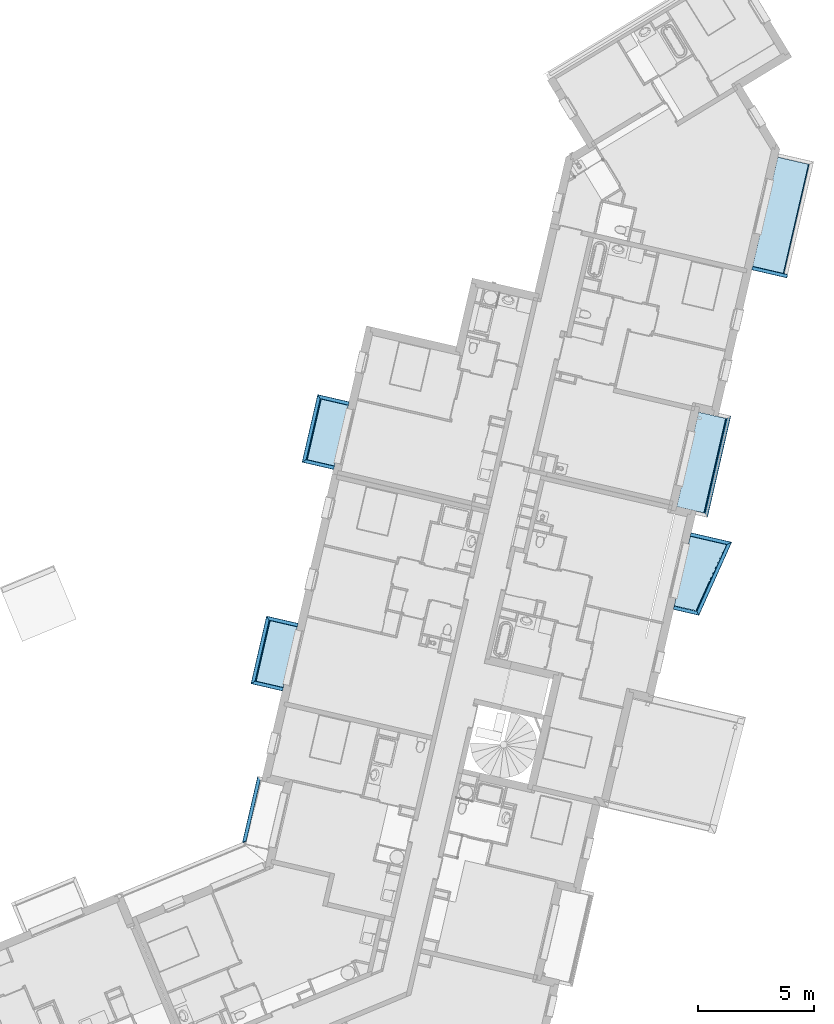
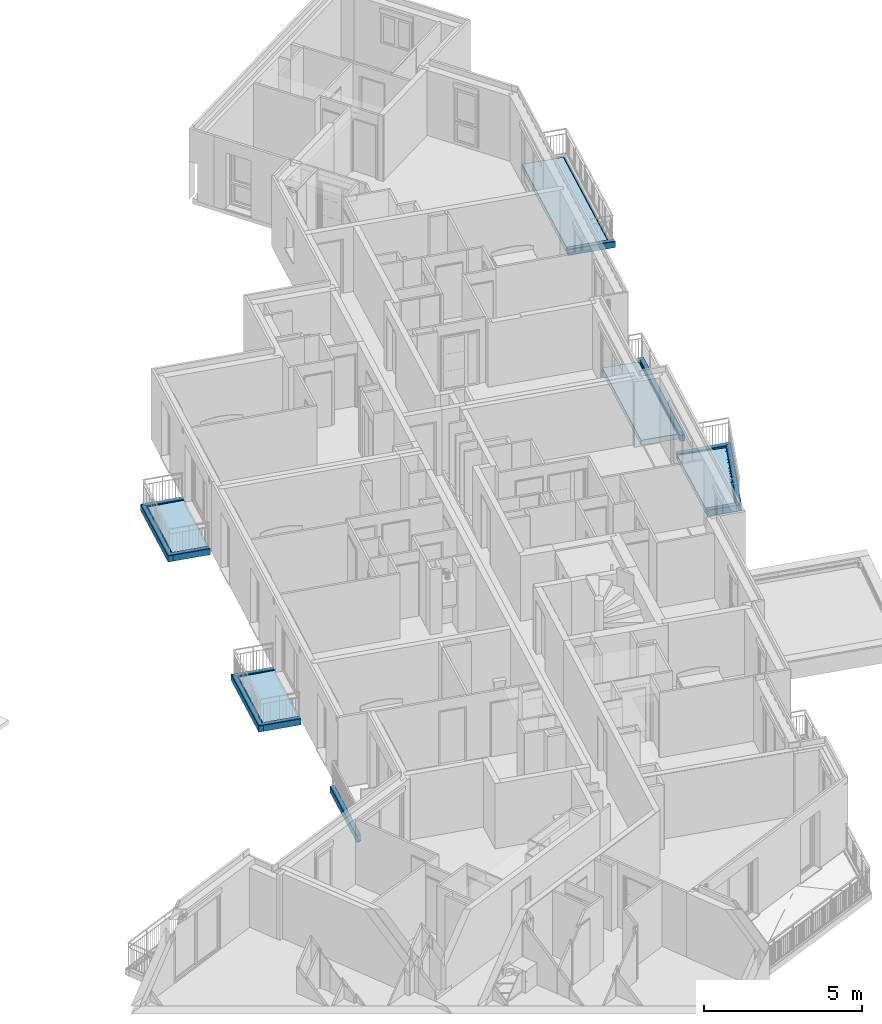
# One storey, part 3 of 90: 17 slabs.
"""IFC2X3 building model written with IfcOpenShell, lengths in metres."""

from ifc_helpers import new_model, entity, si_unit, converted_unit, derived_unit, money_unit, direction, frame, origin_with_axes, place, context, subcontext, project, spatial, faceted_brep, material, type_object, element, save


model = new_model("IFC2X3")

# Units and contexts
model_context = context("Model", 3, precision=1e-05, world=origin_with_axes(), true_north=direction((0.0, 1.0)))
body_context = subcontext(model_context, "Body", "Model", "MODEL_VIEW")
ifc_project = project(units=[si_unit("LENGTHUNIT", "METRE"), si_unit("AREAUNIT", "SQUARE_METRE"), si_unit("VOLUMEUNIT", "CUBIC_METRE"), converted_unit("PLANEANGLEUNIT", "DEGREE", entity("IfcPlaneAngleMeasure", 0.0174532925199), si_unit("PLANEANGLEUNIT", "RADIAN"), dimensions=[0, 0, 0, 0, 0, 0, 0]), si_unit("SOLIDANGLEUNIT", "STERADIAN"), money_unit("EUR"), converted_unit("TIMEUNIT", "Year", entity("IfcTimeMeasure", 31556926.0), si_unit("TIMEUNIT", "SECOND"), dimensions=[0, 0, 1, 0, 0, 0, 0]), si_unit("MASSUNIT", "GRAM", prefix="KILO"), si_unit("THERMODYNAMICTEMPERATUREUNIT", "DEGREE_CELSIUS"), si_unit("LUMINOUSINTENSITYUNIT", "LUMEN"), si_unit("ENERGYUNIT", "JOULE", prefix="MEGA"), derived_unit("THERMALCONDUCTANCEUNIT", [(si_unit("POWERUNIT", "WATT"), 1), (si_unit("LENGTHUNIT", "METRE"), -1), (si_unit("THERMODYNAMICTEMPERATUREUNIT", "KELVIN"), -1)]), derived_unit("SPECIFICHEATCAPACITYUNIT", [(si_unit("ENERGYUNIT", "JOULE"), 1), (si_unit("MASSUNIT", "GRAM", prefix="KILO"), -1), (si_unit("THERMODYNAMICTEMPERATUREUNIT", "KELVIN"), -1)]), derived_unit("MASSDENSITYUNIT", [(si_unit("MASSUNIT", "GRAM", prefix="KILO"), 1), (si_unit("VOLUMEUNIT", "CUBIC_METRE"), -1)])], contexts=[model_context])

# Site, building, storey
site_placement = place(None, origin_with_axes())
site = spatial("IfcSite", under=ifc_project, at=site_placement, Name="Site", CompositionType="ELEMENT")
building_placement = place(site_placement, origin_with_axes())
building = spatial("IfcBuilding", under=site, at=building_placement, Name="Bâtiment", CompositionType="ELEMENT")
storey_placement = place(building_placement, frame((0.0, 0.0, 2.72), z_axis=(0.0, 0.0, 1.0), x_axis=(1.0, 0.0, 0.0)))
storey = spatial("IfcBuildingStorey", under=building, at=storey_placement, Name="R+1", CompositionType="ELEMENT", Elevation=2.72)

# Slabs
ifc_material = material(Name="Béton")
slab_type_1 = type_object("IfcSlabType", Name="Nez de balcon 160 x 239", PredefinedType="USERDEFINED")
slab_1_placement = place(storey_placement, frame((-20.795535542, -11.8972610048, -0.21), z_axis=(0.0, 0.0, 1.0), x_axis=(0.224876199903, 0.974387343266, 0.0)))
element("IfcSlab", 1, at=slab_1_placement, inside=storey, type_object=slab_type_1, material=ifc_material, Name="Nez-de-balcon béton", ObjectType="BALCONY", PredefinedType="USERDEFINED", context=body_context, shape_type="Brep", body=[
    faceted_brep([(0.0, 0.0, 0.00872064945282), (0.0, 0.0, 0.0), (0.0107081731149, -0.0150000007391, 0.0), (0.0130532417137, -0.0182849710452, 0.00622819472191), (0.0177545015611, -0.0248704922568, 0.00872065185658), (2.92078646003, 0.0, 0.0), (0.0, 0.0, 0.23), (2.92078646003, 0.0, 0.230000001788), (2.92078646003, -0.015, 0.0), (2.92078646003, -0.018284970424, 0.00622819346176), (2.89591596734, -0.0248704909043, 0.00872064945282), (2.92078646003, -0.0248704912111, 0.00872065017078), (0.114220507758, -0.160000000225, 0.00872065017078), (0.114220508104, -0.160000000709, 0.219999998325), (0.10751397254, -0.150605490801, 0.23), (-0.00513785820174, -0.00998052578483, 0.239376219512), (2.91080593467, -0.00998052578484, 0.239376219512), (2.92078646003, -0.150605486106, 0.230000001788), (2.92078646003, -0.160000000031, 0.219999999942), (2.92078645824, -0.16, 0.00872064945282), (-0.0161931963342, -0.0314560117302, 0.00622819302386), (-0.0128030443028, -0.0248704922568, 0.00872065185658), (2.88933044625, -0.0314560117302, 0.00622819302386), (2.89591596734, -0.16, 0.00872064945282), (0.0836629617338, -0.16, 0.00872064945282), (0.0755715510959, -0.16, 0.00622819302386), (0.0715354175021, -0.16, 0.0), (2.88604547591, -0.16, 0.0), (2.88933044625, -0.16, 0.00622819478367), (2.92012247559, -0.150019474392, 0.230623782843), (0.106279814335, -0.150019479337, 0.230623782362), (2.88604547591, -0.0347409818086, 0.0), (-0.0178842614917, -0.0347409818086, 0.0)], [[[0, 1, 2, 3, 4]], [[5, 1, 0, 6, 7]], [[8, 2, 1, 5]], [[9, 3, 2, 8]], [[10, 4, 3, 9, 11]], [[6, 0, 4, 12, 13, 14]], [[7, 6, 15, 16]], [[9, 8, 5, 7, 17, 18, 19, 11]], [[20, 21, 4, 10, 22]], [[23, 10, 11, 19]], [[12, 4, 21, 24]], [[24, 25, 26, 27, 28, 23, 19, 18, 13, 12]], [[29, 30, 14, 13, 18, 17]], [[30, 15, 6, 14]], [[16, 15, 30, 29]], [[7, 16, 29, 17]], [[24, 21, 20, 25]], [[28, 22, 10, 23]], [[31, 32, 20, 22]], [[25, 20, 32, 26]], [[27, 26, 32, 31]], [[27, 31, 22, 28]]]),
])
slab_2_placement = place(storey_placement, frame((-19.7551998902, -2.14216067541, -0.22), z_axis=(0.0, 0.0, 1.0), x_axis=(-0.224876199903, -0.974387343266, 0.0)))
element("IfcSlab", 2, at=slab_2_placement, inside=storey, type_object=slab_type_1, material=ifc_material, Name="Nez-de-balcon béton", ObjectType="BALCONY", PredefinedType="USERDEFINED", context=body_context, shape_type="Brep", body=[
    faceted_brep([(3.0, 0.16, 0.00872064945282), (2.97512950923, 0.16, 0.00872065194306), (2.96854398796, 0.16, 0.00622819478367), (2.96525901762, 0.16, 0.0), (0.0347409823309, 0.16, 0.0), (0.0314560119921, 0.16, 0.00622819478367), (0.0248704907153, 0.16, 0.00872065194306), (0.0, 0.16, 0.00872064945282), (-1.78813763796e-09, 0.16, 0.22), (3.00000000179, 0.16, 0.22), (3.0, 0.0248704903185, 0.00872065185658), (2.97512950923, 0.0248704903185, 0.00872065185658), (2.96854398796, 0.0314560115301, 0.00622819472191), (2.96525901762, 0.0347409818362, 0.0), (0.0347409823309, 0.0347409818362, 0.0), (0.0314560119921, 0.0314560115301, 0.00622819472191), (0.0248704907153, 0.0248704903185, 0.00872065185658), (0.0, 0.0248704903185, 0.00872065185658), (-1.78813763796e-09, 0.018284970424, 0.00622819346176), (-1.78813674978e-09, 0.015, 0.0), (-1.78813763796e-09, 0.0, 0.0), (-1.78813763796e-09, 0.0, 0.230000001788), (-1.78813763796e-09, 0.150605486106, 0.230000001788), (0.000663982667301, 0.150019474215, 0.230623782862), (2.99933601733, 0.150019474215, 0.230623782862), (3.00000000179, 0.150605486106, 0.230000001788), (3.00000000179, 0.018284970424, 0.00622819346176), (3.00000000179, 0.0, 0.230000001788), (3.00000000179, 0.0, 0.0), (3.00000000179, 0.015, 0.0), (0.0099805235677, 0.00998052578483, 0.239376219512), (2.99001947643, 0.00998052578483, 0.239376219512)], [[[0, 1, 2, 3, 4, 5, 6, 7, 8, 9]], [[10, 11, 1, 0]], [[12, 2, 1, 11]], [[12, 13, 3, 2]], [[4, 3, 13, 14]], [[15, 5, 4, 14]], [[15, 16, 6, 5]], [[7, 6, 16, 17]], [[8, 7, 17, 18, 19, 20, 21, 22]], [[22, 23, 24, 25, 9, 8]], [[26, 10, 0, 9, 25, 27, 28, 29]], [[16, 11, 10, 26, 18, 17]], [[15, 12, 11, 16]], [[14, 13, 12, 15]], [[19, 18, 26, 29]], [[20, 19, 29, 28]], [[21, 20, 28, 27]], [[21, 30, 23, 22]], [[23, 30, 31, 24]], [[31, 27, 25, 24]], [[30, 21, 27, 31]]]),
])
slab_3_placement = place(storey_placement, frame((-19.7551998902, -2.14216067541, -0.22), z_axis=(0.0, 0.0, 1.0), x_axis=(0.974387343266, -0.224876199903, 0.0)))
element("IfcSlab", 3, at=slab_3_placement, inside=storey, type_object=slab_type_1, material=ifc_material, Name="Nez-de-balcon béton", ObjectType="BALCONY", PredefinedType="USERDEFINED", context=body_context, shape_type="Brep", body=[
    faceted_brep([(1.40000000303, -0.16, 0.0), (0.16, -0.16, 0.0), (0.16, -0.0347409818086, 0.0), (1.40000000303, -0.0347409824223, 0.0), (0.16, -0.16, 0.22), (0.16, -0.16, 0.00872064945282), (1.40000000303, -0.16, 0.22), (0.16, -0.0314560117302, 0.00622819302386), (0.16, -0.0248704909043, 0.00872064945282), (1.40000000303, -0.0314560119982, 0.00622819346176), (1.40000000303, -0.0248704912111, 0.00872065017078), (1.40000000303, -0.018284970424, 0.00622819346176), (1.40000000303, -0.015, 0.0), (1.40000000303, 0.0, 0.0), (1.40000000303, 0.0, 0.23), (1.40000000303, -0.00998052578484, 0.239376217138), (1.40000000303, -0.150019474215, 0.230623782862), (0.16, 0.0, 0.22), (0.16, 0.0, 0.00872065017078), (0.150019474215, -0.150019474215, 0.230623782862), (0.0248704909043, -0.0248704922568, 0.00872065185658), (0.0182849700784, -0.0182849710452, 0.00622819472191), (0.015, -0.0150000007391, 0.0), (0.015, 0.0, 0.0), (0.0182849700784, 0.0, 0.00622819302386), (0.0248704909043, 0.0, 0.00872064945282), (0.150605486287, 0.0, 0.230000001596), (0.150019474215, -0.000663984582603, 0.230623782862), (0.0099805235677, -0.00998052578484, 0.239376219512)], [[[0, 1, 2, 3]], [[4, 5, 1, 0, 6]], [[7, 2, 1, 5, 8]], [[9, 3, 2, 7]], [[6, 0, 3, 9, 10, 11, 12, 13, 14, 15, 16]], [[8, 5, 4, 17, 18]], [[16, 19, 4, 6]], [[10, 9, 7, 8]], [[10, 8, 20, 21, 11]], [[11, 21, 22, 12]], [[12, 22, 23, 13]], [[13, 23, 24, 25, 18, 17, 26, 14]], [[14, 26, 27, 28, 15]], [[15, 28, 19, 16]], [[17, 4, 19, 27, 26]], [[25, 20, 8, 18]], [[24, 21, 20, 25]], [[23, 22, 21, 24]], [[27, 19, 28]]]),
])
slab_4_placement = place(storey_placement, frame((-20.4298284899, -5.06532270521, -0.22), z_axis=(0.0, 0.0, 1.0), x_axis=(0.974387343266, -0.224876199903, 0.0)))
element("IfcSlab", 4, at=slab_4_placement, inside=storey, type_object=slab_type_1, material=ifc_material, Name="Nez-de-balcon béton", ObjectType="BALCONY", PredefinedType="USERDEFINED", context=body_context, shape_type="Brep", body=[
    faceted_brep([(0.0182849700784, 0.0182849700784, 0.00622819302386), (0.015, 0.015, 0.0), (0.015, 0.0, 0.0), (0.0182849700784, 0.0, 0.00622819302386), (1.39999999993, 0.015, 0.0), (1.39999999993, 0.018284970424, 0.00622819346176), (1.39999999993, 0.0, 0.0), (0.150605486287, 0.0, 0.230000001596), (0.16, 0.0, 0.22), (0.16, 0.0, 0.00872065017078), (0.0248704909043, 0.0, 0.00872064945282), (1.39999999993, 0.0, 0.23), (0.0248704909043, 0.0248704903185, 0.00872065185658), (0.16, 0.0248704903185, 0.00872065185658), (1.39999999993, 0.0248704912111, 0.00872065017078), (1.39999999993, 0.00998052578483, 0.239376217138), (1.39999999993, 0.0314560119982, 0.00622819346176), (1.39999999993, 0.0347409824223, 0.0), (1.39999999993, 0.16, 0.0), (1.39999999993, 0.16, 0.22), (1.39999999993, 0.150019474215, 0.230623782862), (0.16, 0.16, 0.22), (0.150019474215, 0.000663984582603, 0.230623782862), (0.150019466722, 0.150019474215, 0.23062378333), (0.16, 0.16, 0.00872064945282), (0.0099805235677, 0.00998052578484, 0.239376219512), (0.16, 0.0314560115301, 0.00622819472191), (0.16, 0.0347409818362, 0.0), (0.16, 0.16, 0.0)], [[[0, 1, 2, 3]], [[4, 1, 0, 5]], [[6, 2, 1, 4]], [[7, 8, 9, 10, 3, 2, 6, 11]], [[0, 3, 10, 12]], [[0, 12, 13, 14, 5]], [[15, 11, 6, 4, 5, 14, 16, 17, 18, 19, 20]], [[21, 8, 7, 22, 23]], [[24, 13, 9, 8, 21]], [[10, 9, 13, 12]], [[25, 22, 7, 11, 15]], [[14, 13, 26, 16]], [[16, 26, 27, 17]], [[18, 17, 27, 28]], [[18, 28, 24, 21, 19]], [[19, 21, 23, 20]], [[23, 25, 15, 20]], [[23, 22, 25]], [[27, 26, 13, 24, 28]]]),
])
slab_5_placement = place(storey_placement, frame((-17.5515634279, 7.40618405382, -0.22), z_axis=(0.0, 0.0, 1.0), x_axis=(-0.224876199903, -0.974387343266, 0.0)))
element("IfcSlab", 5, at=slab_5_placement, inside=storey, type_object=slab_type_1, material=ifc_material, Name="Nez-de-balcon béton", ObjectType="BALCONY", PredefinedType="USERDEFINED", context=body_context, shape_type="Brep", body=[
    faceted_brep([(3.0, 0.16, 0.00872064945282), (2.97512950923, 0.16, 0.00872065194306), (2.96854398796, 0.16, 0.00622819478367), (2.96525901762, 0.16, 0.0), (0.0347409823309, 0.16, 0.0), (0.0314560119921, 0.16, 0.00622819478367), (0.0248704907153, 0.16, 0.00872065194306), (0.0, 0.16, 0.00872064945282), (-1.78813808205e-09, 0.16, 0.22), (3.00000000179, 0.16, 0.22), (3.0, 0.0248704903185, 0.00872065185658), (2.97512950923, 0.0248704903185, 0.00872065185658), (2.96854398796, 0.0314560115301, 0.00622819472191), (2.96525901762, 0.0347409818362, 0.0), (0.0347409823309, 0.0347409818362, 0.0), (0.0314560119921, 0.0314560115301, 0.00622819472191), (0.0248704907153, 0.0248704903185, 0.00872065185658), (0.0, 0.0248704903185, 0.00872065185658), (-1.78813852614e-09, 0.018284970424, 0.00622819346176), (-1.78813808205e-09, 0.015, 0.0), (-1.78813852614e-09, 0.0, 0.0), (-1.78813808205e-09, 0.0, 0.230000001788), (-1.78813897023e-09, 0.150605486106, 0.230000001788), (0.000663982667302, 0.150019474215, 0.230623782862), (2.99933601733, 0.150019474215, 0.230623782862), (3.00000000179, 0.150605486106, 0.230000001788), (3.00000000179, 0.018284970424, 0.00622819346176), (3.00000000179, 0.0, 0.230000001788), (3.00000000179, 0.0, 0.0), (3.00000000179, 0.015, 0.0), (0.0099805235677, 0.00998052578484, 0.239376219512), (2.99001947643, 0.00998052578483, 0.239376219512)], [[[0, 1, 2, 3, 4, 5, 6, 7, 8, 9]], [[10, 11, 1, 0]], [[12, 2, 1, 11]], [[12, 13, 3, 2]], [[4, 3, 13, 14]], [[15, 5, 4, 14]], [[15, 16, 6, 5]], [[7, 6, 16, 17]], [[8, 7, 17, 18, 19, 20, 21, 22]], [[22, 23, 24, 25, 9, 8]], [[26, 10, 0, 9, 25, 27, 28, 29]], [[16, 11, 10, 26, 18, 17]], [[15, 12, 11, 16]], [[14, 13, 12, 15]], [[19, 18, 26, 29]], [[20, 19, 29, 28]], [[21, 20, 28, 27]], [[21, 30, 23, 22]], [[23, 30, 31, 24]], [[31, 27, 25, 24]], [[30, 21, 27, 31]]]),
])
slab_6_placement = place(storey_placement, frame((-17.5515634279, 7.40618405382, -0.22), z_axis=(0.0, 0.0, 1.0), x_axis=(0.974387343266, -0.224876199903, 0.0)))
element("IfcSlab", 6, at=slab_6_placement, inside=storey, type_object=slab_type_1, material=ifc_material, Name="Nez-de-balcon béton", ObjectType="BALCONY", PredefinedType="USERDEFINED", context=body_context, shape_type="Brep", body=[
    faceted_brep([(0.015, 0.0, 0.0), (0.015, -0.0150000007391, 0.0), (0.0182849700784, -0.0182849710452, 0.00622819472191), (0.0182849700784, 0.0, 0.00622819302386), (1.40000000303, -0.015, 0.0), (1.40000000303, 0.0, 0.0), (1.40000000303, -0.018284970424, 0.00622819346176), (0.0248704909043, -0.0248704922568, 0.00872065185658), (0.0248704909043, 0.0, 0.00872064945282), (0.16, 0.0, 0.00872065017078), (0.16, 0.0, 0.22), (0.150605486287, 0.0, 0.230000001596), (1.40000000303, 0.0, 0.23), (1.40000000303, -0.16, 0.22), (1.40000000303, -0.16, 0.0), (1.40000000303, -0.0347409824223, 0.0), (1.40000000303, -0.0314560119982, 0.00622819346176), (1.40000000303, -0.0248704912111, 0.00872065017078), (1.40000000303, -0.00998052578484, 0.239376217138), (1.40000000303, -0.150019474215, 0.230623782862), (0.16, -0.0248704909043, 0.00872064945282), (0.16, -0.16, 0.00872064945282), (0.16, -0.16, 0.22), (0.150019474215, -0.150019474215, 0.230623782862), (0.150019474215, -0.000663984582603, 0.230623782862), (0.00998052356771, -0.00998052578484, 0.239376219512), (0.16, -0.16, 0.0), (0.16, -0.0347409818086, 0.0), (0.16, -0.0314560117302, 0.00622819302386)], [[[0, 1, 2, 3]], [[4, 1, 0, 5]], [[6, 2, 1, 4]], [[3, 2, 7, 8]], [[5, 0, 3, 8, 9, 10, 11, 12]], [[13, 14, 15, 16, 17, 6, 4, 5, 12, 18, 19]], [[17, 20, 7, 2, 6]], [[8, 7, 20, 9]], [[20, 21, 22, 10, 9]], [[10, 22, 23, 24, 11]], [[12, 11, 24, 25, 18]], [[22, 21, 26, 14, 13]], [[14, 26, 27, 15]], [[16, 15, 27, 28]], [[20, 17, 16, 28]], [[18, 25, 23, 19]], [[19, 23, 22, 13]], [[28, 27, 26, 21, 20]], [[24, 23, 25]]]),
])
slab_7_placement = place(storey_placement, frame((-18.2261920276, 4.48302202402, -0.22), z_axis=(0.0, 0.0, 1.0), x_axis=(0.974387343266, -0.224876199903, 0.0)))
element("IfcSlab", 7, at=slab_7_placement, inside=storey, type_object=slab_type_1, material=ifc_material, Name="Nez-de-balcon béton", ObjectType="BALCONY", PredefinedType="USERDEFINED", context=body_context, shape_type="Brep", body=[
    faceted_brep([(0.0182849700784, 0.0182849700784, 0.00622819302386), (0.015, 0.015, 0.0), (0.015, 0.0, 0.0), (0.0182849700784, 0.0, 0.00622819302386), (1.39999999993, 0.015, 0.0), (1.39999999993, 0.018284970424, 0.00622819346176), (1.39999999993, 0.0, 0.0), (0.150605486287, 0.0, 0.230000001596), (0.16, 0.0, 0.22), (0.16, 0.0, 0.00872065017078), (0.0248704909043, 0.0, 0.00872064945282), (1.39999999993, 0.0, 0.23), (0.0248704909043, 0.0248704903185, 0.00872065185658), (0.16, 0.0248704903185, 0.00872065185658), (1.39999999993, 0.0248704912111, 0.00872065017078), (1.39999999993, 0.00998052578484, 0.239376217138), (1.39999999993, 0.0314560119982, 0.00622819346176), (1.39999999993, 0.0347409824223, 0.0), (1.39999999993, 0.16, 0.0), (1.39999999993, 0.16, 0.22), (1.39999999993, 0.150019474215, 0.230623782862), (0.16, 0.16, 0.22), (0.150019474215, 0.000663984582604, 0.230623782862), (0.150019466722, 0.150019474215, 0.23062378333), (0.16, 0.16, 0.00872064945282), (0.0099805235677, 0.00998052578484, 0.239376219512), (0.16, 0.0314560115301, 0.00622819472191), (0.16, 0.0347409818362, 0.0), (0.16, 0.16, 0.0)], [[[0, 1, 2, 3]], [[4, 1, 0, 5]], [[6, 2, 1, 4]], [[7, 8, 9, 10, 3, 2, 6, 11]], [[0, 3, 10, 12]], [[0, 12, 13, 14, 5]], [[15, 11, 6, 4, 5, 14, 16, 17, 18, 19, 20]], [[21, 8, 7, 22, 23]], [[24, 13, 9, 8, 21]], [[10, 9, 13, 12]], [[25, 22, 7, 11, 15]], [[14, 13, 26, 16]], [[16, 26, 27, 17]], [[18, 17, 27, 28]], [[18, 28, 24, 21, 19]], [[19, 21, 23, 20]], [[20, 23, 25, 15]], [[23, 22, 25]], [[27, 26, 13, 24, 28]]]),
])
slab_8_placement = place(storey_placement, frame((0.307025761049, 1.04328030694, -0.22), z_axis=(0.0, 0.0, 1.0), x_axis=(-0.409502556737, -0.912308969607, 0.0)))
element("IfcSlab", 8, at=slab_8_placement, inside=storey, type_object=slab_type_1, material=ifc_material, Name="Nez-de-balcon béton", ObjectType="BALCONY", PredefinedType="USERDEFINED", context=body_context, shape_type="Brep", body=[
    faceted_brep([(3.49736326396, -0.16, 0.00872064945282), (3.4720118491, -0.16, 0.00872064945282), (3.44530942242, -0.0248704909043, 0.00872064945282), (3.47066083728, -0.0248704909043, 0.00872064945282), (3.46195049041, -0.16, 0.0), (3.46529898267, -0.16, 0.00622819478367), (3.49736326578, -0.16, 0.22), (0.0316169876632, -0.16, 0.22), (0.0316169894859, -0.16, 0.00872064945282), (0.0569684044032, -0.16, 0.00872064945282), (0.063681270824, -0.16, 0.00622819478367), (0.0670297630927, -0.16, 0.0), (3.43989789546, -0.0314560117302, 0.00622819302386), (3.46935949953, -0.018284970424, 0.00622819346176), (0.0302659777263, -0.0248704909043, 0.00872064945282), (0.00491456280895, -0.0248704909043, 0.00872064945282), (0.00361322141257, -0.018284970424, 0.00622819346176), (3.46871036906, -0.015, 0.0), (3.4657462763, 0.0, 0.0), (3.46574627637, -3.55494356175e-10, 0.230000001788), (3.49550685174, -0.150605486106, 0.230000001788), (3.43719853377, -0.0347409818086, 0.0), (3.49471422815, -0.150019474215, 0.230623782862), (0.0303215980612, -0.150019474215, 0.230623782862), (0.0297605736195, -0.150605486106, 0.230000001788), (-1.82271531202e-09, 0.0, 0.230000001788), (-1.82271664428e-09, 0.0, 0.0), (0.00296409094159, -0.015, 0.0), (0.0382801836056, -0.0314560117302, 0.00622819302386), (0.0422778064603, -0.0347409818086, 0.0), (3.45754496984, -0.00998052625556, 0.239376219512), (0.0121457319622, -0.00998052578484, 0.239376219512)], [[[0, 1, 2, 3]], [[4, 5, 1, 0, 6, 7, 8, 9, 10, 11]], [[5, 12, 2, 1]], [[13, 3, 2, 14, 15, 16]], [[6, 0, 3, 13, 17, 18, 19, 20]], [[4, 21, 12, 5]], [[7, 6, 20, 22, 23, 24]], [[16, 15, 8, 7, 24, 25, 26, 27]], [[15, 14, 9, 8]], [[10, 9, 14, 28]], [[10, 28, 29, 11]], [[29, 21, 4, 11]], [[14, 2, 12, 28]], [[16, 27, 17, 13]], [[27, 26, 18, 17]], [[26, 25, 19, 18]], [[22, 20, 19, 30]], [[28, 12, 21, 29]], [[31, 23, 22, 30]], [[24, 23, 31, 25]], [[25, 31, 30, 19]]]),
])
slab_9_placement = place(storey_placement, frame((0.307025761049, 1.04328030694, -0.22), z_axis=(0.0, 0.0, 1.0), x_axis=(-0.974387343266, 0.224876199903, 0.0)))
element("IfcSlab", 9, at=slab_9_placement, inside=storey, type_object=slab_type_1, material=ifc_material, Name="Nez-de-balcon béton", ObjectType="BALCONY", PredefinedType="USERDEFINED", context=body_context, shape_type="Brep", body=[
    faceted_brep([(0.194710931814, 0.16, 0.22), (1.80634800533, 0.16, 0.22), (1.80634800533, 0.16, 0.0), (0.194710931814, 0.16, 0.0), (0.194710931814, 0.16, 0.00872064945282), (0.182565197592, 0.150019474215, 0.230623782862), (1.80634800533, 0.150019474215, 0.230623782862), (1.80634800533, 0.0248704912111, 0.00872065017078), (1.80634800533, 0.0314560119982, 0.00622819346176), (1.80634800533, 0.0347409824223, 0.0), (1.80634800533, 0.00998052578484, 0.239376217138), (1.80634800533, 0.0, 0.23), (1.80634800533, 0.0, 0.0), (1.80634800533, 0.015, 0.0), (1.80634800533, 0.018284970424, 0.00622819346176), (0.169958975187, 0.0347409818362, 0.0), (0.16930984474, 0.0314560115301, 0.00622819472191), (0.168008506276, 0.0248704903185, 0.00872065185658), (0.163093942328, 0.0, 0.22), (0.163093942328, 0.0, 0.00872065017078), (0.0121457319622, 0.00998052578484, 0.239376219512), (0.153051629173, 0.000663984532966, 0.230623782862), (0.153517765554, 0.0, 0.230000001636), (0.0152900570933, 0.0, 0.0), (0.0253514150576, 0.0, 0.00872064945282), (0.0186385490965, 0.0, 0.00622819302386), (0.0182541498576, 0.015, 0.0), (0.0222517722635, 0.0182849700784, 0.00622819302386), (0.0302659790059, 0.0248704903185, 0.00872065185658)], [[[0, 1, 2, 3, 4]], [[5, 6, 1, 0]], [[7, 8, 9, 2, 1, 6, 10, 11, 12, 13, 14]], [[3, 2, 9, 15]], [[4, 3, 15, 16, 17]], [[18, 0, 4, 17, 19]], [[20, 10, 6, 5]], [[21, 5, 0, 18, 22]], [[16, 8, 7, 17]], [[15, 9, 8, 16]], [[22, 11, 10, 20, 21]], [[23, 12, 11, 22, 18, 19, 24, 25]], [[26, 13, 12, 23]], [[27, 14, 13, 26]], [[17, 7, 14, 27, 28]], [[24, 19, 17, 28]], [[21, 20, 5]], [[24, 28, 27, 25]], [[25, 27, 26, 23]]]),
])
slab_10_placement = place(storey_placement, frame((-1.11220619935, -2.11855110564, -0.22), z_axis=(0.0, 0.0, 1.0), x_axis=(-0.974387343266, 0.224876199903, 0.0)))
element("IfcSlab", 10, at=slab_10_placement, inside=storey, type_object=slab_type_1, material=ifc_material, Name="Nez-de-balcon béton", ObjectType="BALCONY", PredefinedType="USERDEFINED", context=body_context, shape_type="Brep", body=[
    faceted_brep([(0.153517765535, 0.0, 0.230000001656), (1.13448697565, 0.0, 0.23), (1.13448697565, 0.0, 0.0), (0.0152900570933, 0.0, 0.0), (0.0186385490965, 0.0, 0.00622819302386), (0.0253514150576, 0.0, 0.00872064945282), (0.163093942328, 0.0, 0.00872065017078), (0.163093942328, 0.0, 0.22), (0.00820130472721, -0.00998052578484, 0.239376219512), (1.13448697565, -0.00998052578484, 0.239376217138), (0.152789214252, -0.000663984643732, 0.230623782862), (1.13448697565, -0.018284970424, 0.00622819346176), (1.13448697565, -0.015, 0.0), (1.13448697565, -0.150019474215, 0.230623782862), (1.13448697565, -0.16, 0.22), (1.13448697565, -0.16, 0.0), (1.13448697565, -0.0347409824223, 0.0), (1.13448697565, -0.0314560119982, 0.00622819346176), (1.13448697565, -0.0248704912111, 0.00872065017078), (0.0123259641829, -0.0150000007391, 0.0), (0.0150253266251, -0.0182849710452, 0.00622819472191), (0.0204368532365, -0.0248704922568, 0.00872065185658), (0.158179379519, -0.0248704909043, 0.00872064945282), (0.131476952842, -0.16, 0.00872064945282), (0.131476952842, -0.16, 0.22), (0.123275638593, -0.150019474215, 0.230623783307), (0.131476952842, -0.16, 0.0), (0.156228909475, -0.0347409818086, 0.0), (0.156878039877, -0.0314560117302, 0.00622819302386)], [[[0, 1, 2, 3, 4, 5, 6, 7]], [[8, 9, 1, 0, 10]], [[11, 12, 2, 1, 9, 13, 14, 15, 16, 17, 18]], [[3, 2, 12, 19]], [[20, 4, 3, 19]], [[21, 5, 4, 20]], [[21, 22, 6, 5]], [[7, 6, 22, 23, 24]], [[10, 0, 7, 24, 25]], [[25, 13, 9, 8]], [[25, 8, 10]], [[19, 12, 11, 20]], [[24, 14, 13, 25]], [[26, 15, 14, 24, 23]], [[27, 16, 15, 26]], [[28, 17, 16, 27]], [[22, 18, 17, 28]], [[20, 11, 18, 22, 21]], [[22, 28, 27, 26, 23]]]),
])
slab_11_placement = place(storey_placement, frame((0.268451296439, 6.48521474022, -0.22), z_axis=(0.0, 0.0, 1.0), x_axis=(-0.224633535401, -0.974443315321, 0.0)))
element("IfcSlab", 11, at=slab_11_placement, inside=storey, type_object=slab_type_1, material=ifc_material, Name="Nez-de-balcon béton", ObjectType="BALCONY", PredefinedType="USERDEFINED", context=body_context, shape_type="Brep", body=[
    faceted_brep([(4.46915069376, -0.0314560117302, 0.00622819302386), (0.0314481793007, -0.0314560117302, 0.00622819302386), (0.0248642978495, -0.0248704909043, 0.00872064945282), (4.47573785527, -0.0248704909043, 0.00872064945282), (4.46586490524, -0.0347409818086, 0.0), (0.0347323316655, -0.0347409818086, 0.0), (0.0314161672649, -0.16, 0.00622819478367), (0.0248306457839, -0.16, 0.00872064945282), (-6.19363865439e-06, -0.0248704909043, 0.00872064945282), (-4.55539747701e-06, -0.018284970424, 0.00622819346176), (4.50060998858, -0.018284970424, 0.00622819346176), (4.50060834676, -0.0248704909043, 0.00872064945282), (4.46911868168, -0.16, 0.00622819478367), (4.47570420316, -0.16, 0.00872064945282), (4.46583371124, -0.16, 0.0), (0.0347011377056, -0.16, 0.0), (4.50057469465, -0.16, 0.00872064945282), (4.50057469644, -0.16, 0.22), (-3.98474907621e-05, -0.16, 0.22), (-3.98457026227e-05, -0.16, 0.00872064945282), (-3.75079219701e-05, -0.150605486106, 0.230000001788), (-1.78813852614e-09, 0.0, 0.230000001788), (-1.78813763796e-09, 0.0, 0.0), (-3.73732275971e-06, -0.015, 0.0), (4.50061080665, -0.015, 0.0), (4.50061454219, 0.0, 0.0), (4.50061454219, 0.0, 0.230000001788), (4.50057703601, -0.150605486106, 0.230000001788), (4.49991319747, -0.150019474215, 0.230623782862), (0.000626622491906, -0.150019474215, 0.230623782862), (0.00997803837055, -0.00998052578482, 0.239376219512), (4.49063153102, -0.00998052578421, 0.239376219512)], [[[0, 1, 2, 3]], [[4, 5, 1, 0]], [[6, 7, 2, 1]], [[3, 2, 8, 9, 10, 11]], [[12, 0, 3, 13]], [[14, 15, 5, 4]], [[6, 1, 5, 15]], [[14, 4, 0, 12]], [[7, 6, 15, 14, 12, 13, 16, 17, 18, 19]], [[8, 2, 7, 19]], [[9, 8, 19, 18, 20, 21, 22, 23]], [[24, 10, 9, 23]], [[17, 16, 11, 10, 24, 25, 26, 27]], [[16, 13, 3, 11]], [[28, 29, 20, 18, 17, 27]], [[20, 29, 30, 21]], [[26, 25, 22, 21]], [[25, 24, 23, 22]], [[28, 27, 26, 31]], [[28, 31, 30, 29]], [[31, 26, 21, 30]]]),
])
slab_12_placement = place(storey_placement, frame((1.16073837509, 12.7750454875, -0.22), z_axis=(0.0, 0.0, 1.0), x_axis=(0.974387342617, -0.224876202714, 0.0)))
element("IfcSlab", 12, at=slab_12_placement, inside=storey, type_object=slab_type_1, material=ifc_material, Name="Nez-de-balcon béton", ObjectType="BALCONY", PredefinedType="USERDEFINED", context=body_context, shape_type="Brep", body=[
    faceted_brep([(1.55999999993, 0.0248704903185, 0.00872065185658), (1.53512950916, 0.0248704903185, 0.00872065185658), (1.53512950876, 0.16, 0.00872065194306), (1.55999999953, 0.16, 0.00872064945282), (0.0, 0.0248704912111, 0.00872065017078), (1.56000000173, 0.018284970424, 0.00622819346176), (0.0, 0.018284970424, 0.00622819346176), (1.52854398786, 0.0314560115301, 0.00622819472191), (1.52854398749, 0.16, 0.00622819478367), (1.52525901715, 0.16, 0.0), (0.0, 0.16, 0.0), (0.0, 0.16, 0.22), (1.56000000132, 0.16, 0.22), (1.56000000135, 0.150605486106, 0.230000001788), (1.56000000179, 0.0, 0.230000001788), (1.56000000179, 0.0, 0.0), (1.56000000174, 0.015, 0.0), (0.0, 0.0314560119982, 0.00622819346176), (0.0, 0.015, 0.0), (0.0, 0.00998052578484, 0.239376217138), (0.0, 0.150019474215, 0.230623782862), (0.0, 0.0347409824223, 0.0), (0.0, 0.0, 0.0), (0.0, 0.0, 0.23), (1.52525901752, 0.0347409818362, 0.0), (1.55933601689, 0.150019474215, 0.230623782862), (1.5500194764, 0.00998052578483, 0.239376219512)], [[[0, 1, 2, 3]], [[4, 1, 0, 5, 6]], [[7, 8, 2, 1]], [[2, 8, 9, 10, 11, 12, 3]], [[5, 0, 3, 12, 13, 14, 15, 16]], [[17, 7, 1, 4]], [[18, 6, 5, 16]], [[19, 20, 11, 10, 21, 17, 4, 6, 18, 22, 23]], [[24, 9, 8, 7]], [[10, 9, 24, 21]], [[11, 20, 25, 13, 12]], [[26, 14, 13, 25]], [[23, 22, 15, 14]], [[22, 18, 16, 15]], [[21, 24, 7, 17]], [[20, 19, 26, 25]], [[19, 23, 14, 26]]]),
])
slab_type_2 = type_object("IfcSlabType", Name="Béton", PredefinedType="USERDEFINED")
for number, where, z_axis, x_axis in (
    (13, (-20.2379463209, -5.22424738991, -0.22), (0.0, 0.0, 1.0), (1.0, 0.0, 0.0)),
    (14, (-18.0343098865, 4.324097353, -0.22), (0.0, 0.0, 1.0), (1.0, 0.0, 0.0)),
):
    element("IfcSlab", number, at=place(storey_placement, frame(where, z_axis=z_axis, x_axis=x_axis)), inside=storey, type_object=slab_type_2, material=ifc_material, Name="Dalle de balcon béton", ObjectType="BALCONY", PredefinedType="USERDEFINED", context=body_context, shape_type="Brep", body=[
        faceted_brep([(1.81090855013, 2.61135804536, 0.198273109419), (0.641643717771, 2.88120950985, 0.185321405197), (0.0389755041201, 0.269851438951, 0.185321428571), (1.2082403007, 0.0, 0.198273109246), (0.602668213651, 2.89020454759, 0.0), (0.602668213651, 2.89020454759, 0.16), (0.631899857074, 2.88345827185, 0.160000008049), (1.81090855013, 2.61135804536, 0.0), (0.0292315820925, 0.272100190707, 0.16), (1.2082403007, 0.0, 0.0), (0.0, 0.278846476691, 0.16), (0.0, 0.278846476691, 0.0)], [[[0, 1, 2, 3]], [[4, 5, 6, 1, 0, 7]], [[8, 2, 1, 6]], [[9, 3, 2, 8, 10, 11]], [[7, 0, 3, 9]], [[11, 10, 5, 4]], [[10, 8, 6, 5]], [[11, 4, 7, 9]]]),
    ])
slab_13_placement = place(storey_placement, frame((-2.07176246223, 2.29151211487, -0.22), z_axis=(0.0, 0.0, 1.0), x_axis=(1.0, 0.0, 0.0)))
element("IfcSlab", 15, at=slab_13_placement, inside=storey, type_object=slab_type_2, material=ifc_material, Name="Dalle de balcon béton", ObjectType="BALCONY", PredefinedType="USERDEFINED", context=body_context, shape_type="Brep", body=[
    faceted_brep([(2.11913880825, 4.08051816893, 0.160000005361), (2.1093949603, 4.0827669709, 0.185321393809), (1.17028871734, 0.00899502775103, 0.185321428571), (1.18003256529, 0.0067462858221, 0.16), (0.939741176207, 4.35270815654, 0.0), (0.939741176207, 4.35270815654, 0.198273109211), (1.23594017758, 4.28434921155, 0.198928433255), (1.96148991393, 4.11690153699, 0.190891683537), (2.14837041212, 4.07377188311, 0.16), (2.14837041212, 4.07377188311, 0.0), (0.780940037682, 0.0988517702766, 0.19998469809), (1.20926416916, 0.0, 0.0), (1.20926416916, 0.0, 0.16), (0.780940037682, 0.0988517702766, 0.0), (0.0, 0.279082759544, 0.0), (0.0, 0.279082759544, 0.19827310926), (0.77972114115, 0.0991330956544, 0.199998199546), (0.77972114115, 0.0991330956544, 0.0)], [[[0, 1, 2, 3]], [[4, 5, 6, 7, 1, 0, 8, 9]], [[10, 2, 1, 7]], [[11, 12, 3, 2, 10, 13]], [[8, 0, 3, 12]], [[14, 15, 5, 4]], [[5, 15, 16, 6]], [[7, 6, 16, 10]], [[9, 8, 12, 11]], [[4, 9, 11, 13, 17, 14]], [[13, 10, 16, 17]], [[17, 16, 15, 14]]]),
])
slab_14_placement = place(storey_placement, frame((1.19671856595, 12.6161207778, -0.22), z_axis=(0.0, 0.0, 1.0), x_axis=(1.0, 0.0, 0.0)))
element("IfcSlab", 16, at=slab_14_placement, inside=storey, type_object=slab_type_2, material=ifc_material, Name="Dalle de balcon béton", ObjectType="BALCONY", PredefinedType="USERDEFINED", context=body_context, shape_type="Brep", body=[
    faceted_brep([(1.32516678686, 0.00899504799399, 0.185321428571), (1.33491066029, 0.00674628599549, 0.16), (2.42096521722, 4.71261473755, 0.16), (2.41122134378, 4.71486349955, 0.185321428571), (1.36414228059, 0.0, 0.0), (1.36414228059, 0.0, 0.16), (0.0, 0.31482667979, 0.2), (0.0, 0.31482667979, 0.0), (2.45019683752, 4.70586845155, 0.16), (1.08605455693, 5.02069513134, 0.0), (1.08605455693, 5.02069513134, 0.2), (2.45019683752, 4.70586845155, 0.0)], [[[0, 1, 2, 3]], [[4, 5, 1, 0, 6, 7]], [[1, 5, 8, 2]], [[9, 10, 3, 2, 8, 11]], [[6, 0, 3, 10]], [[11, 8, 5, 4]], [[7, 6, 10, 9]], [[11, 4, 7, 9]]]),
])
slab_15_placement = place(storey_placement, frame((-2.18165575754, -1.9315105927, -0.22), z_axis=(0.0, 0.0, 1.0), x_axis=(1.0, 0.0, 0.0)))
element("IfcSlab", 17, at=slab_15_placement, inside=storey, type_object=slab_type_2, material=ifc_material, Name="Dalle de balcon béton", ObjectType="BALCONY", PredefinedType="USERDEFINED", context=body_context, shape_type="Brep", body=[
    faceted_brep([(0.941533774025, 0.0163800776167, 0.18532142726), (0.695691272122, 3.22438446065, 0.198149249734), (0.0, 0.223980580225, 0.199619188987), (2.23318056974, 2.86955150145, 0.160000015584), (0.692618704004, 3.22509359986, 0.198277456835), (0.941533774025, 0.0163800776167, 0.0), (0.0, 0.223980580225, 0.0), (0.950656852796, 0.0122850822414, 0.160000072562), (0.692618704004, 3.22509359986, 0.0), (2.26297744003, 2.86267478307, 0.16), (2.26297744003, 2.86267478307, 0.0), (0.978026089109, 0.0, 0.0), (0.978026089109, 0.0, 0.16)], [[[0, 1, 2]], [[0, 3, 1]], [[4, 2, 1]], [[5, 0, 2, 6]], [[0, 7, 3]], [[8, 4, 1, 3, 9, 10]], [[6, 2, 4, 8]], [[11, 12, 7, 0, 5]], [[8, 10, 11, 5, 6]], [[7, 12, 9, 3]], [[10, 9, 12, 11]]]),
])

save(model, "model.ifc")
